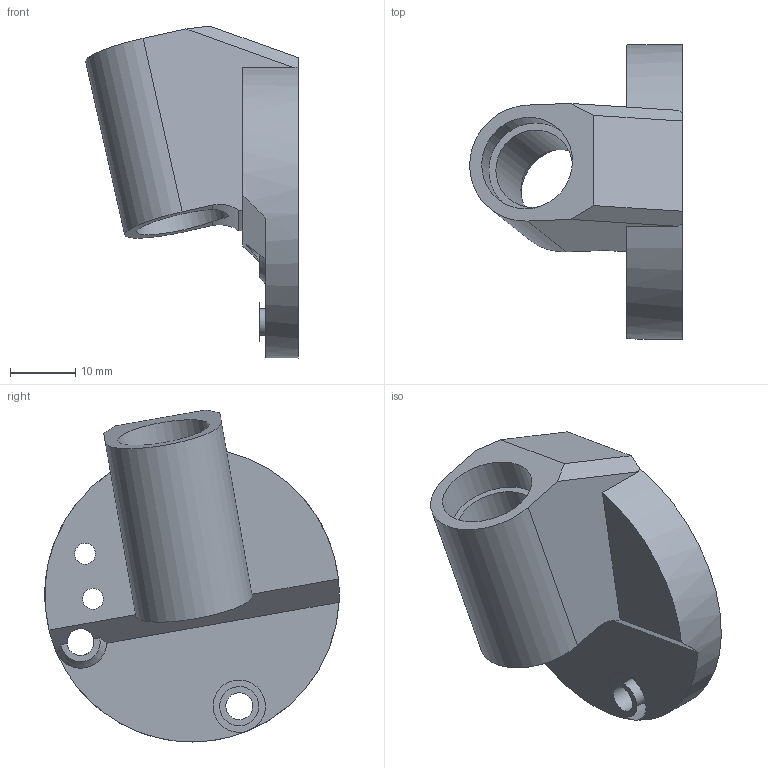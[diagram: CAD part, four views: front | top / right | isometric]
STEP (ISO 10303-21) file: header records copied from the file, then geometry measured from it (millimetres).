
FILE_DESCRIPTION(/* description */ (''),/* implementation_level */ '2;1');
FILE_NAME(/* name */ '4-31-1 Wheel carrier left.step',/* time_stamp */ '2025-05-10T22:19:26+02:00',/* author */ (''),/* organization */ (''),/* preprocessor_version */ 'ST-DEVELOPER v20.1',/* originating_system */ 'Autodesk Translation Framework v14.4.0.0',/* authorisation */ '');
FILE_SCHEMA (('AUTOMOTIVE_DESIGN { 1 0 10303 214 3 1 1 }'));
Length unit declared in the file: millimetre
Products named in the file (1): Wheel carrier left
Bounding box: 32.52 x 44.99 x 50.73 mm (x, y, z)
Volume: 15761.2 mm3; surface area: 7543.1 mm2
Topology: 1 solids, 1 shells, 40 faces, 99 edges, 64 vertices
Faces by surface type: plane 20, cylinder 14, cone 6
Full cylindrical faces by diameter (mm): 3.2 x2, 4.1 x4, 6 x2, 12 x1, 14.2 x2
Entity records: 1278 total; most frequent: DIRECTION 231, CARTESIAN_POINT 218, ORIENTED_EDGE 198, EDGE_CURVE 99, AXIS2_PLACEMENT_3D 92, VERTEX_POINT 64, EDGE_LOOP 53, LINE 47
